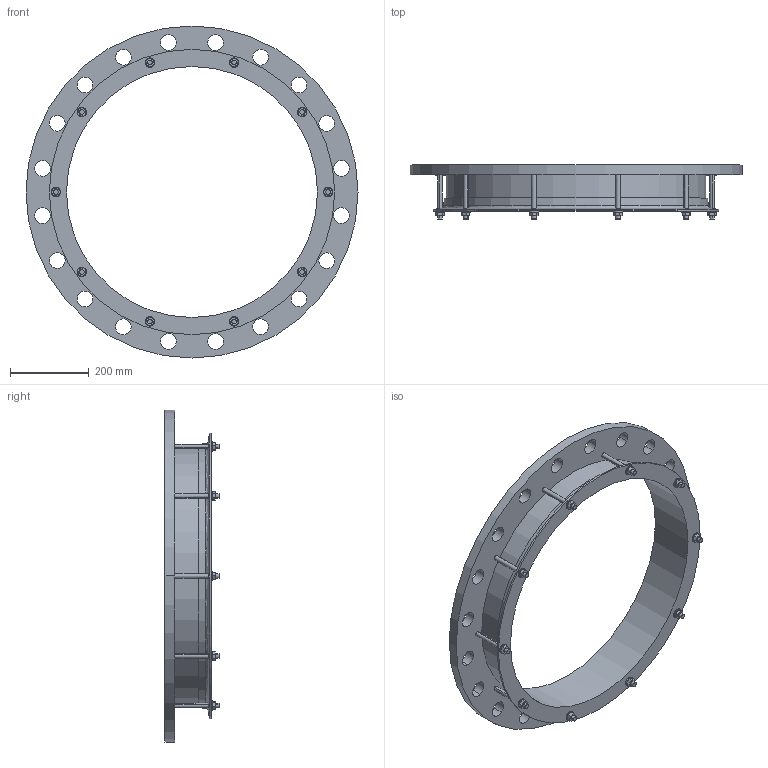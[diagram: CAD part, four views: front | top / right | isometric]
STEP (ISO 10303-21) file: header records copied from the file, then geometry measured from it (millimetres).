
FILE_DESCRIPTION((''),'2;1');
FILE_NAME('635X600PN25','2019-04-04T',('mfairey'),('Glynwed Pipe Systems'),'CREO PARAMETRIC BY PTC INC, 2016130','CREO PARAMETRIC BY PTC INC, 2016130','');
FILE_SCHEMA(('CONFIG_CONTROL_DESIGN'));
Length unit declared in the file: millimetre
Products named in the file (1): 635X600PN25
Bounding box: 845 x 137.45 x 845 mm (x, y, z)
Volume: 8393763.1 mm3; surface area: 1158293.5 mm2
Topology: 1 solids, 1 shells, 208 faces, 548 edges, 364 vertices
Faces by surface type: cylinder 108, plane 94, cone 4, torus 2
Entity records: 7202 total; most frequent: CARTESIAN_POINT 1756, DIRECTION 1132, ORIENTED_EDGE 1096, EDGE_CURVE 548, AXIS2_PLACEMENT_3D 420, VERTEX_POINT 364, VECTOR 292, LINE 292
